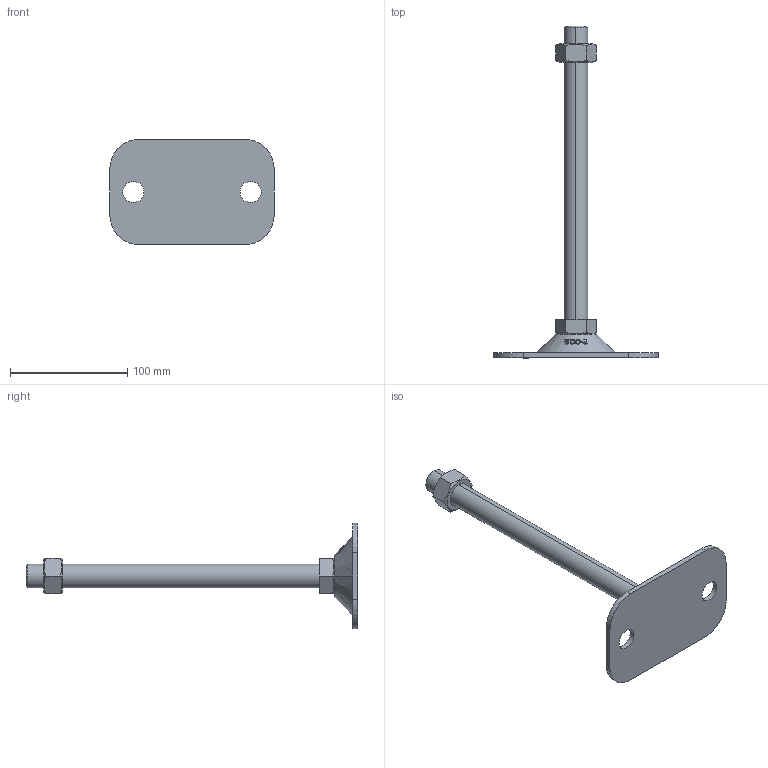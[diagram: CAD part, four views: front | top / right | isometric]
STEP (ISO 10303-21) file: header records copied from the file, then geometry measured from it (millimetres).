
FILE_DESCRIPTION (( 'STEP AP214' ), '1' );
FILE_NAME ('FABL90140-M20-250.step', '2021-03-28T23:53:43', ( '' ), ( '' ), 'SwSTEP 2.0', 'SolidWorks 2019', '' );
FILE_SCHEMA (( 'AUTOMOTIVE_DESIGN' ));
Length unit declared in the file: millimetre
Products named in the file (2): FABL90140-M20-250
Bounding box: 140 x 283 x 90 mm (x, y, z)
Volume: 181215 mm3; surface area: 47229.5 mm2
Topology: 2 solids, 2 shells, 130 faces, 333 edges, 218 vertices
Faces by surface type: plane 50, cylinder 40, cone 22, bspline 18
Entity records: 5583 total; most frequent: CARTESIAN_POINT 2625, ORIENTED_EDGE 666, DIRECTION 485, EDGE_CURVE 333, VERTEX_POINT 218, AXIS2_PLACEMENT_3D 178, EDGE_LOOP 147, B_SPLINE_CURVE_WITH_KNOTS 140
